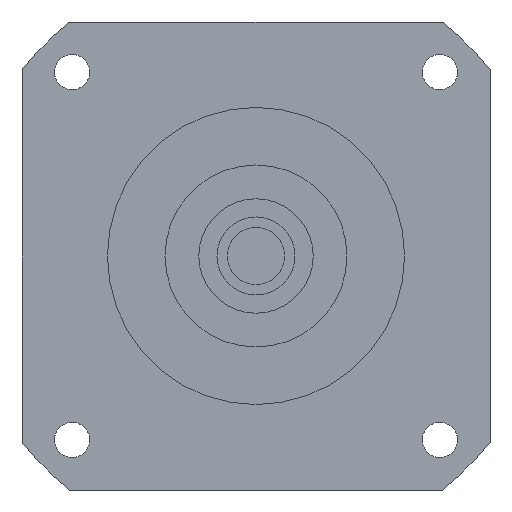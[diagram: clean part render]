
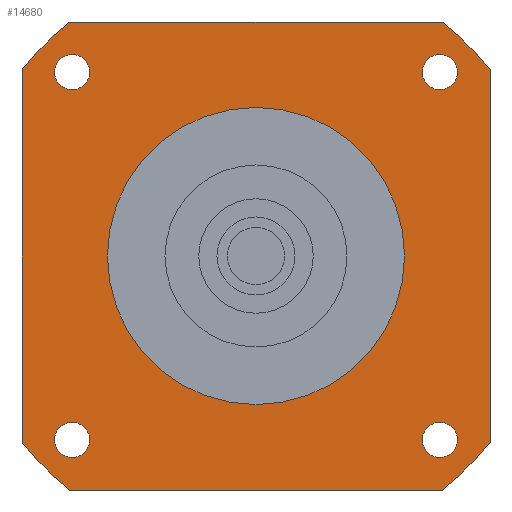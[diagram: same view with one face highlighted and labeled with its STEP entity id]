
A CAD part, left-side view. The second image highlights one B-rep face of the part: STEP entity #14680.
In plain terms, the highlighted planar face has unit normal (-1, 0, 0) as drawn and (0, 0, -1) by its records, which use the part's own axes.
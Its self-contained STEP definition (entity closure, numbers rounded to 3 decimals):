
#10670=CARTESIAN_POINT('',(63.961,-70.711,-66.7));
#10680=VERTEX_POINT('',#10670);
#10710=CARTESIAN_POINT('',(70.711,-70.711,-66.7));
#10720=DIRECTION('',(0.,0.,-1.));
#10730=DIRECTION('',(1.,0.,0.));
#10740=AXIS2_PLACEMENT_3D('',#10710,#10720,#10730);
#10750=CIRCLE('',#10740,6.75);
#10760=CARTESIAN_POINT('',(77.461,-70.711,-66.7));
#10770=VERTEX_POINT('',#10760);
#10780=EDGE_CURVE('',#10770,#10680,#10750,.T.);
#13110=CARTESIAN_POINT('',(70.711,63.961,-66.7));
#13120=VERTEX_POINT('',#13110);
#13150=CARTESIAN_POINT('',(70.711,70.711,-66.7));
#13160=DIRECTION('',(0.,0.,-1.));
#13170=DIRECTION('',(0.,1.,0.));
#13180=AXIS2_PLACEMENT_3D('',#13150,#13160,#13170);
#13190=CIRCLE('',#13180,6.75);
#13200=CARTESIAN_POINT('',(70.711,77.461,-66.7));
#13210=VERTEX_POINT('',#13200);
#13220=EDGE_CURVE('',#13210,#13120,#13190,.T.);
#13340=CARTESIAN_POINT('',(90.,90.,-66.7));
#13350=DIRECTION('',(0.,0.,-1.));
#13360=DIRECTION('',(1.,0.,0.));
#13370=AXIS2_PLACEMENT_3D('',#13340,#13350,#13360);
#13380=PLANE('',#13370);
#13390=CARTESIAN_POINT('',(-70.711,-70.711,-66.7));
#13400=DIRECTION('',(0.,0.,-1.));
#13410=DIRECTION('',(0.,-1.,0.));
#13420=AXIS2_PLACEMENT_3D('',#13390,#13400,#13410);
#13430=CIRCLE('',#13420,6.75);
#13440=CARTESIAN_POINT('',(-70.711,-77.461,-66.7));
#13450=VERTEX_POINT('',#13440);
#13460=CARTESIAN_POINT('',(-70.711,-63.961,-66.7));
#13470=VERTEX_POINT('',#13460);
#13480=EDGE_CURVE('',#13450,#13470,#13430,.T.);
#13490=ORIENTED_EDGE('',*,*,#13480,.F.);
#13500=EDGE_CURVE('',#13470,#13450,#13430,.T.);
#13510=ORIENTED_EDGE('',*,*,#13500,.F.);
#13520=EDGE_LOOP('',(#13510,#13490));
#13530=FACE_BOUND('',#13520,.T.);
#13540=CARTESIAN_POINT('',(-70.711,70.711,-66.7));
#13550=DIRECTION('',(0.,0.,-1.));
#13560=DIRECTION('',(-1.,0.,0.));
#13570=AXIS2_PLACEMENT_3D('',#13540,#13550,#13560);
#13580=CIRCLE('',#13570,6.75);
#13590=CARTESIAN_POINT('',(-77.461,70.711,-66.7));
#13600=VERTEX_POINT('',#13590);
#13610=CARTESIAN_POINT('',(-63.961,70.711,-66.7));
#13620=VERTEX_POINT('',#13610);
#13630=EDGE_CURVE('',#13600,#13620,#13580,.T.);
#13640=ORIENTED_EDGE('',*,*,#13630,.F.);
#13650=EDGE_CURVE('',#13620,#13600,#13580,.T.);
#13660=ORIENTED_EDGE('',*,*,#13650,.F.);
#13670=EDGE_LOOP('',(#13660,#13640));
#13680=FACE_BOUND('',#13670,.T.);
#13690=ORIENTED_EDGE('',*,*,#13220,.F.);
#13700=EDGE_CURVE('',#13120,#13210,#13190,.T.);
#13710=ORIENTED_EDGE('',*,*,#13700,.F.);
#13720=EDGE_LOOP('',(#13710,#13690));
#13730=FACE_BOUND('',#13720,.T.);
#13740=CARTESIAN_POINT('',(0.,0.,
-66.7));
#13750=DIRECTION('',(0.,0.,1.));
#13760=DIRECTION('',(0.,1.,0.));
#13770=AXIS2_PLACEMENT_3D('',#13740,#13750,#13760);
#13780=CIRCLE('',#13770,57.15);
#13790=CARTESIAN_POINT('',(-57.15,0.,-66.7));
#13800=VERTEX_POINT('',#13790);
#13810=CARTESIAN_POINT('',(57.15,0.,-66.7));
#13820=VERTEX_POINT('',#13810);
#13830=EDGE_CURVE('',#13800,#13820,#13780,.T.);
#13840=ORIENTED_EDGE('',*,*,#13830,.T.);
#13850=CARTESIAN_POINT('',(0.,57.15,-66.7));
#13860=VERTEX_POINT('',#13850);
#13870=EDGE_CURVE('',#13860,#13800,#13780,.T.);
#13880=ORIENTED_EDGE('',*,*,#13870,.T.);
#13890=EDGE_CURVE('',#13820,#13860,#13780,.T.);
#13900=ORIENTED_EDGE('',*,*,#13890,.T.);
#13910=EDGE_LOOP('',(#13900,#13880,#13840));
#13920=FACE_BOUND('',#13910,.T.);
#13930=CARTESIAN_POINT('',(-90.,90.,-66.7));
#13940=DIRECTION('',(1.,0.,0.));
#13950=VECTOR('',#13940,1000.);
#13960=LINE('',#13930,#13950);
#13970=CARTESIAN_POINT('',(-71.589,90.,-66.7));
#13980=VERTEX_POINT('',#13970);
#13990=CARTESIAN_POINT('',(71.589,90.,-66.7));
#14000=VERTEX_POINT('',#13990);
#14010=EDGE_CURVE('',#13980,#14000,#13960,.T.);
#14020=ORIENTED_EDGE('',*,*,#14010,.T.);
#14030=CARTESIAN_POINT('',(0.,0.,
-66.7));
#14040=DIRECTION('',(0.,0.,-1.));
#14050=DIRECTION('',(1.,0.,0.));
#14060=AXIS2_PLACEMENT_3D('',#14030,#14040,#14050);
#14070=CIRCLE('',#14060,115.);
#14080=CARTESIAN_POINT('',(-90.,71.589,-66.7));
#14090=VERTEX_POINT('',#14080);
#14100=EDGE_CURVE('',#14090,#13980,#14070,.T.);
#14110=ORIENTED_EDGE('',*,*,#14100,.T.);
#14120=CARTESIAN_POINT('',(-90.,-90.,-66.7));
#14130=DIRECTION('',(0.,1.,0.));
#14140=VECTOR('',#14130,1000.);
#14150=LINE('',#14120,#14140);
#14160=CARTESIAN_POINT('',(-90.,-71.589,-66.7));
#14170=VERTEX_POINT('',#14160);
#14180=EDGE_CURVE('',#14170,#14090,#14150,.T.);
#14190=ORIENTED_EDGE('',*,*,#14180,.T.);
#14200=CARTESIAN_POINT('',(0.,0.,
-66.7));
#14210=DIRECTION('',(0.,0.,-1.));
#14220=DIRECTION('',(1.,0.,0.));
#14230=AXIS2_PLACEMENT_3D('',#14200,#14210,#14220);
#14240=CIRCLE('',#14230,115.);
#14250=CARTESIAN_POINT('',(-71.589,-90.,-66.7));
#14260=VERTEX_POINT('',#14250);
#14270=EDGE_CURVE('',#14260,#14170,#14240,.T.);
#14280=ORIENTED_EDGE('',*,*,#14270,.T.);
#14290=CARTESIAN_POINT('',(90.,-90.,-66.7));
#14300=DIRECTION('',(-1.,0.,0.));
#14310=VECTOR('',#14300,1000.);
#14320=LINE('',#14290,#14310);
#14330=CARTESIAN_POINT('',(71.589,-90.,-66.7));
#14340=VERTEX_POINT('',#14330);
#14350=EDGE_CURVE('',#14340,#14260,#14320,.T.);
#14360=ORIENTED_EDGE('',*,*,#14350,.T.);
#14370=CARTESIAN_POINT('',(0.,0.,
-66.7));
#14380=DIRECTION('',(0.,0.,-1.));
#14390=DIRECTION('',(1.,0.,0.));
#14400=AXIS2_PLACEMENT_3D('',#14370,#14380,#14390);
#14410=CIRCLE('',#14400,115.);
#14420=CARTESIAN_POINT('',(90.,-71.589,-66.7));
#14430=VERTEX_POINT('',#14420);
#14440=EDGE_CURVE('',#14430,#14340,#14410,.T.);
#14450=ORIENTED_EDGE('',*,*,#14440,.T.);
#14460=CARTESIAN_POINT('',(90.,90.,-66.7));
#14470=DIRECTION('',(0.,-1.,0.));
#14480=VECTOR('',#14470,1000.);
#14490=LINE('',#14460,#14480);
#14500=CARTESIAN_POINT('',(90.,71.589,-66.7));
#14510=VERTEX_POINT('',#14500);
#14520=EDGE_CURVE('',#14510,#14430,#14490,.T.);
#14530=ORIENTED_EDGE('',*,*,#14520,.T.);
#14540=CARTESIAN_POINT('',(0.,0.,
-66.7));
#14550=DIRECTION('',(0.,0.,-1.));
#14560=DIRECTION('',(1.,0.,0.));
#14570=AXIS2_PLACEMENT_3D('',#14540,#14550,#14560);
#14580=CIRCLE('',#14570,115.);
#14590=EDGE_CURVE('',#14000,#14510,#14580,.T.);
#14600=ORIENTED_EDGE('',*,*,#14590,.T.);
#14610=EDGE_LOOP('',(#14600,#14530,#14450,#14360,#14280,#14190,#14110,
#14020));
#14620=FACE_OUTER_BOUND('',#14610,.T.);
#14630=ORIENTED_EDGE('',*,*,#10780,.F.);
#14640=EDGE_CURVE('',#10680,#10770,#10750,.T.);
#14650=ORIENTED_EDGE('',*,*,#14640,.F.);
#14660=EDGE_LOOP('',(#14650,#14630));
#14670=FACE_BOUND('',#14660,.T.);
#14680=ADVANCED_FACE('',(#13530,#13680,#13730,#13920,#14620,#14670),
#13380,.T.);
